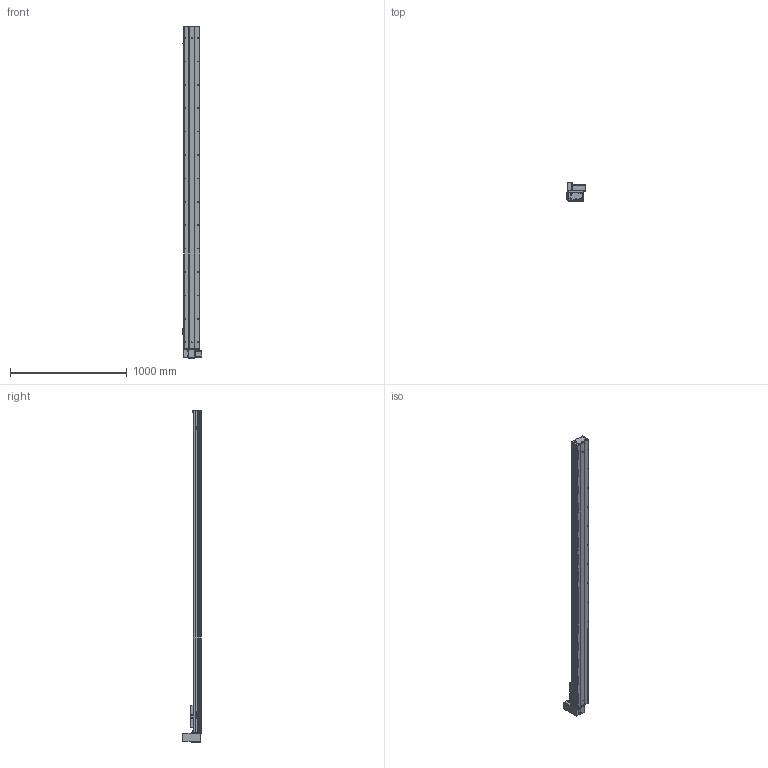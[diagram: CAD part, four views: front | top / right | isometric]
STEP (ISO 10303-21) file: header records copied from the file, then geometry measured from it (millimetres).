
FILE_DESCRIPTION (( 'STEP AP203' ), '1' );
FILE_NAME ('Y135CB-D90-S2450-UR-P400W.STEP', '2020-02-18T06:36:03', ( '微软用户' ), ( '微软中国' ), 'SwSTEP 2.0', 'SolidWorks 2017', '' );
FILE_SCHEMA (( 'CONFIG_CONTROL_DESIGN' ));
Length unit declared in the file: millimetre
Products named in the file (18): san松下电机400不带刹车----; 5CB --掛极耜裔啣-; Y10B--々湍喘謫眊--666; C-詩湍揤踡え-陔; Y135CB-耜裔; Y10B-耜蚾蟀諉啣----; 135CB--詩湍-CE; 135CB---遴掛极.-; 00B-俋欶BM--; Y100-135俋离換覜ん--; 35CB---喘謫眊楊擘啣; Y135CB-D90-S2450-UR-P400W; Y135C-陔俋离換覜結え-; 0B-埴倛裔啣; 5C--俋欶; 0B-源倛裔啣; C-雄赽釱--; 0B-萇儂楊擘啣
Assembly tree (21 placements, depth 2):
  Y135CB-D90-S2450-UR-P400W
    Y135CB-耜裔
    135CB---遴掛极.-
    35CB---喘謫眊楊擘啣
    0B-埴倛裔啣
    0B-源倛裔啣
    0B-萇儂楊擘啣
    san松下电机400不带刹车----
    5CB --掛极耜裔啣-  x2
    C-詩湍揤踡え-陔  x2
    135CB--詩湍-CE
    Y100-135俋离換覜ん--  x3
    Y135C-陔俋离換覜結え-
    5C--俋欶
    C-雄赽釱--
    Y10B--々湍喘謫眊--666
    Y10B-耜蚾蟀諉啣----
    00B-俋欶BM--
Bounding box: 167.5 x 158.7 x 2838 mm (x, y, z)
Volume: 8152030.9 mm3; surface area: 3227851.3 mm2
Topology: 21 solids, 21 shells, 973 faces, 2653 edges, 1758 vertices
Faces by surface type: cylinder 501, plane 456, cone 16
Entity records: 30763 total; most frequent: CARTESIAN_POINT 5120, DIRECTION 5113, ORIENTED_EDGE 4782, EDGE_CURVE 2391, AXIS2_PLACEMENT_3D 1875, VERTEX_POINT 1586, LINE 1363, VECTOR 1363
